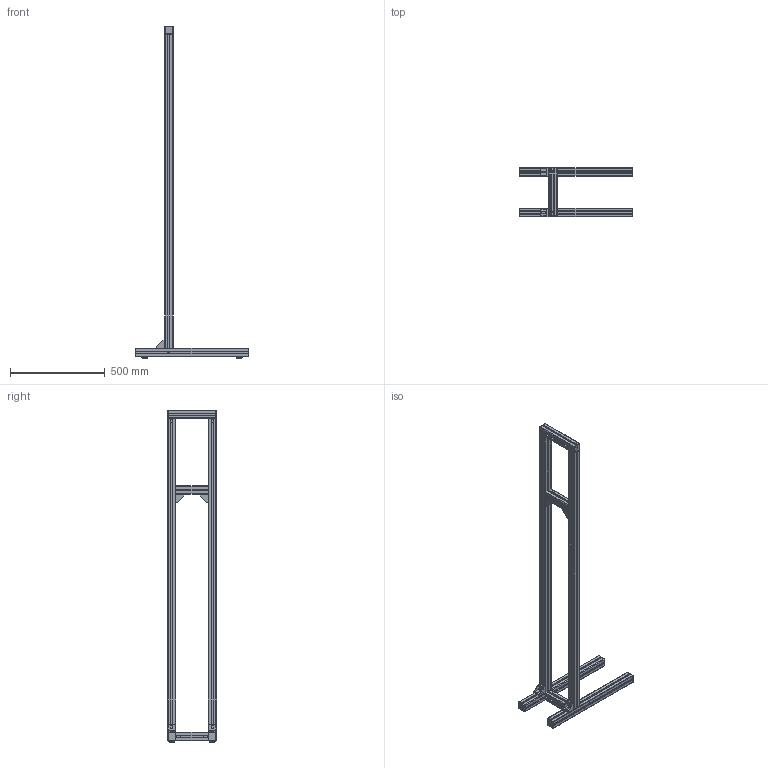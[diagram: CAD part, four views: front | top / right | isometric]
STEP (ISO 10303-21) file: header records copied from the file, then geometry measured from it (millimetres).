
FILE_DESCRIPTION(('STEP AP242'),'1');
FILE_NAME('ARMCH_25A.stp','2025-05-05T09:52:37',(' '),(' '),'Spatial InterOp 3D',' ',' ');
FILE_SCHEMA(('AP242_MANAGED_MODEL_BASED_3D_ENGINEERING_MIM_LF {1 0 10303 442 1 1 4}'));
Length unit declared in the file: millimetre
Products named in the file (12): Châssis Type 1 L25cm; Equerre 45/45; Pied; 45x45 - noir; Vis centrale M12x30-T50; 45x45L
Assembly tree (25 placements, depth 2):
  Châssis Type 1 L25cm
    Equerre 45/45  x4
    Pied  x4
    45x45 - noir  x6
    Vis centrale M12x30-T50  x4
    45x45L
    45x45L
    45x45L
    45x45L
    45x45L
    45x45L
    45x45L
Bounding box: 600 x 259 x 1752.5 mm (x, y, z)
Volume: 5634006.7 mm3; surface area: 2062166.2 mm2
Topology: 25 solids, 25 shells, 737 faces, 1939 edges, 1267 vertices
Faces by surface type: plane 474, cylinder 195, torus 28, bspline 24, cone 16
Full cylindrical faces by diameter (mm): 9.8 x8, 9.9 x4, 10 x7, 10.2 x8, 10.5 x4, 12 x4, 19 x4
Entity records: 20002 total; most frequent: CARTESIAN_POINT 3369, ORIENTED_EDGE 2450, DIRECTION 2345, EDGE_CURVE 1225, LINE 1049, VECTOR 1049, VERTEX_POINT 834, AXIS2_PLACEMENT_3D 648
